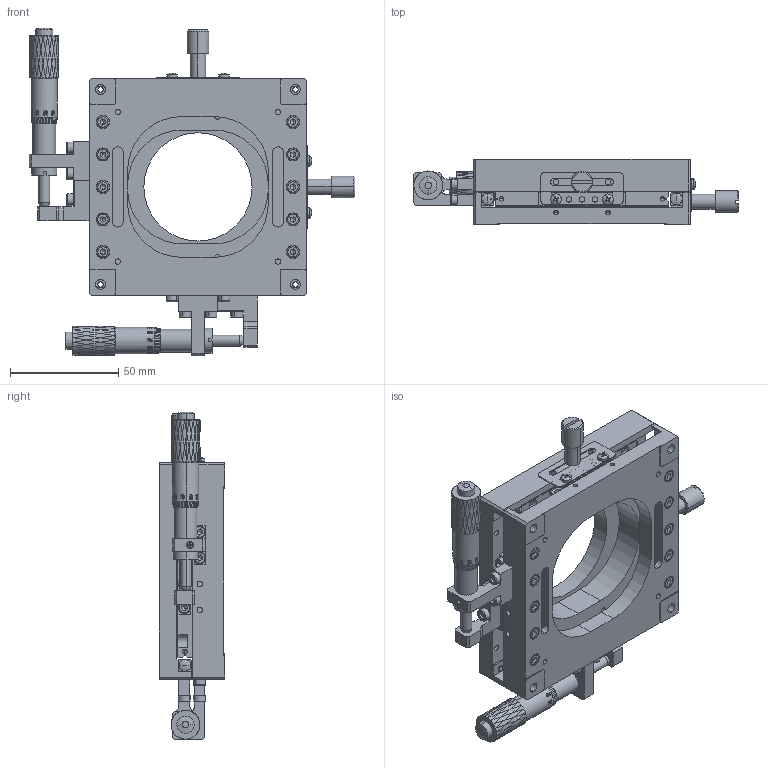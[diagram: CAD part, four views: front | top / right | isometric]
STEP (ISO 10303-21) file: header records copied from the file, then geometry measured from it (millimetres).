
FILE_DESCRIPTION (( 'STEP AP203' ), '1' );
FILE_NAME ('BPKB100.STEP', '2024-01-09T01:53:36', ( 'China' ), ( 'Microsoft' ), 'SwSTEP 2.0', 'SolidWorks 2024', '' );
FILE_SCHEMA (( 'CONFIG_CONTROL_DESIGN' ));
Length unit declared in the file: millimetre
Products named in the file (1): BPKB100
Bounding box: 150.5 x 30.03 x 151.33 mm (x, y, z)
Volume: 197688.6 mm3; surface area: 111823.6 mm2
Topology: 65 solids, 65 shells, 3860 faces, 9700 edges, 6156 vertices
Faces by surface type: bspline 1126, plane 1096, cylinder 1030, cone 508, torus 88, sphere 12
Entity records: 201333 total; most frequent: CARTESIAN_POINT 119155, ORIENTED_EDGE 19136, DIRECTION 13228, EDGE_CURVE 9568, VERTEX_POINT 6156, AXIS2_PLACEMENT_3D 5107, EDGE_LOOP 4470, FACE_OUTER_BOUND 3860
